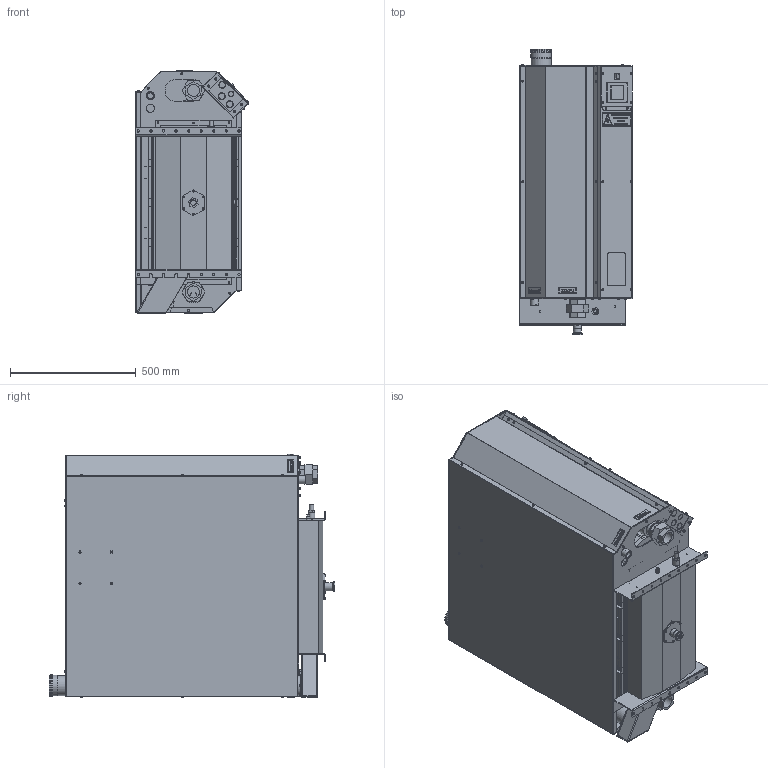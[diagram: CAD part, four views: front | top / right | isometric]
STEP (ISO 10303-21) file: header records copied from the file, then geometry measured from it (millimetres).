
FILE_DESCRIPTION (( 'STEP AP203' ), '1' );
FILE_NAME ('MRL 100.STEP', '2019-03-08T08:24:00', ( '' ), ( '' ), 'SwSTEP 2.0', 'SolidWorks 2019', '' );
FILE_SCHEMA (( 'CONFIG_CONTROL_DESIGN' ));
Products named in the file (1): MRL 100
Bounding box: 446.75 x 1135.42 x 966.97 mm (x, y, z)
Surface area: 9249960.3 mm2 (no closed solid volume)
Topology: 0 solids, 272 shells, 994 faces, 6423 edges, 5630 vertices
Faces by surface type: plane 586, cylinder 253, torus 65, sphere 45, bspline 32, cone 13
Full cylindrical faces by diameter (mm): 4 x4, 7 x9, 7.4 x1, 8 x28, 8.5 x11, 9 x15, 12 x1, 13 x1, 14 x1, 15 x1, 17 x2, 18 x1, 21.2 x1, 22.9 x2, 24 x1, 25 x1, 26.4 x1, 26.9 x1, 32 x2, 33 x1, 48 x2, 50 x2, 55 x2, 75 x1, 79 x1, 80 x2, 82 x1, 82.727 x1, 85.636 x1
Entity records: 70439 total; most frequent: CARTESIAN_POINT 23542, DIRECTION 9176, ORIENTED_EDGE 7282, EDGE_CURVE 6241, VERTEX_POINT 5609, VECTOR 3822, LINE 3822, AXIS2_PLACEMENT_3D 2677
